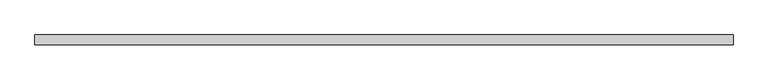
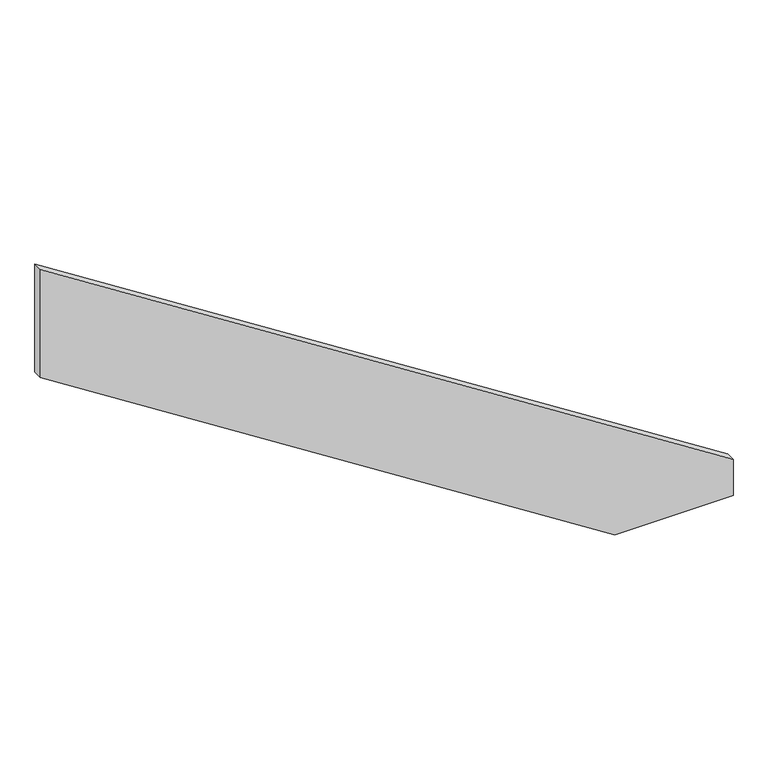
"""IFC4 building model written with IfcOpenShell, lengths in millimetres: plate geometry, 結構襯料 15 : 結構襯料 15."""

from ifc_helpers import new_model, si_unit, frame, origin, place, context, project, spatial, polyline, outline, extrude, source, transform, mapped, element, save


def plate_4c9c69a3(model_context):
    return source(origin(), model_context, "Body", "SweptSolid", [
        extrude(outline(polyline([(-2165.2, -13787.9248768), (142.0, -17392.9248768), (-451.6328832, -17392.9248768), (-2363.9265766, -14404.9659808), (-2363.9265766, -13787.9248768), (-2165.2, -13787.9248768)])), frame((0.0, -1105.1928355, 0.0), z_axis=(0.0, 1.0, 0.0), x_axis=(0.0, 0.0, 1.0)), (0.0, 0.0, 1.0), 50.0),
    ])


if __name__ == "__main__":
    model = new_model("IFC4")
    model_context = context("Model", 3, world=origin())
    ifc_project = project(units=[si_unit("LENGTHUNIT", "METRE", prefix="MILLI")], contexts=[model_context])
    site = spatial("IfcSite", under=ifc_project)
    building = spatial("IfcBuilding", under=site)
    placement = place(None, origin())
    plate_shape = plate_4c9c69a3(model_context)
    element("IfcPlate", 1, ObjectType="結構襯料 15 : 結構襯料 15", at=placement, inside=building, context=model_context, shape_type="MappedRepresentation", body=[
        mapped(plate_shape, transform((0.0, 0.0, 0.0), x_axis=(1.0, 0.0, 0.0), y_axis=(0.0, 1.0, 0.0), z_axis=(0.0, 0.0, 1.0))),
    ])
    save(model, "model.ifc")
